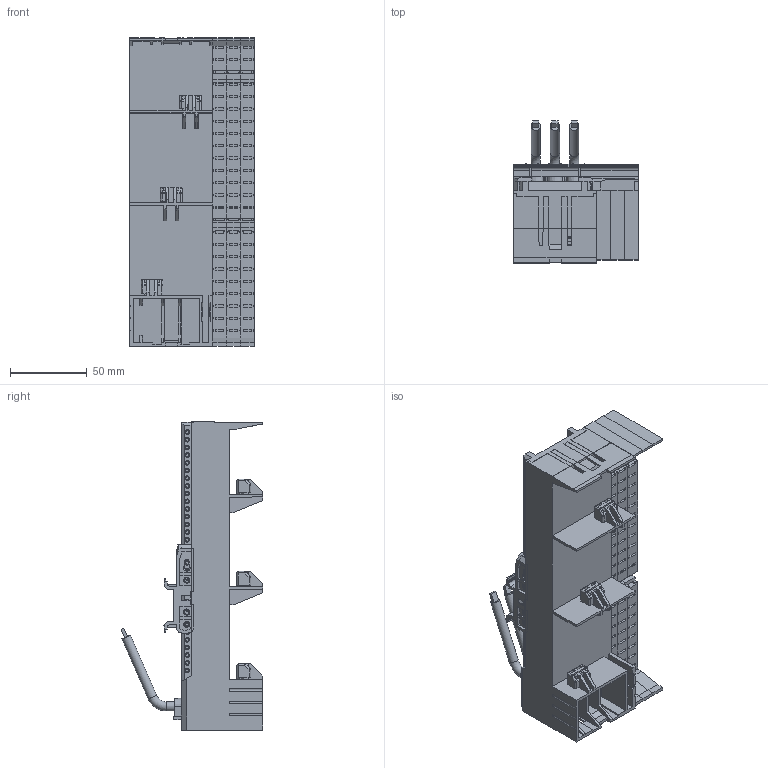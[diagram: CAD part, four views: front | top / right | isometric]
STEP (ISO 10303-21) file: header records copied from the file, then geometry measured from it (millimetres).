
FILE_DESCRIPTION (( 'STEP AP203' ), '1' );
FILE_NAME ('55372.STEP', '2021-08-18T05:51:44', ( '' ), ( '' ), 'SwSTEP 2.0', 'SolidWorks 2017', '' );
FILE_SCHEMA (( 'CONFIG_CONTROL_DESIGN' ));
Products named in the file (2): 55372
Bounding box: 81.05 x 92.2 x 200.4 mm (x, y, z)
Volume: 441637.7 mm3; surface area: 151880.1 mm2
Topology: 8 solids, 25 shells, 2391 faces, 6577 edges, 4407 vertices
Faces by surface type: plane 1782, cylinder 422, cone 161, bspline 23, torus 3
Full cylindrical faces by diameter (mm): 1.988 x130, 2.982 x6, 3.479 x4, 5.169 x2, 5.964 x7, 6 x6
Entity records: 84636 total; most frequent: CARTESIAN_POINT 25803, ORIENTED_EDGE 12328, DIRECTION 11073, EDGE_CURVE 6164, VECTOR 4691, LINE 4691, VERTEX_POINT 4301, AXIS2_PLACEMENT_3D 3191
